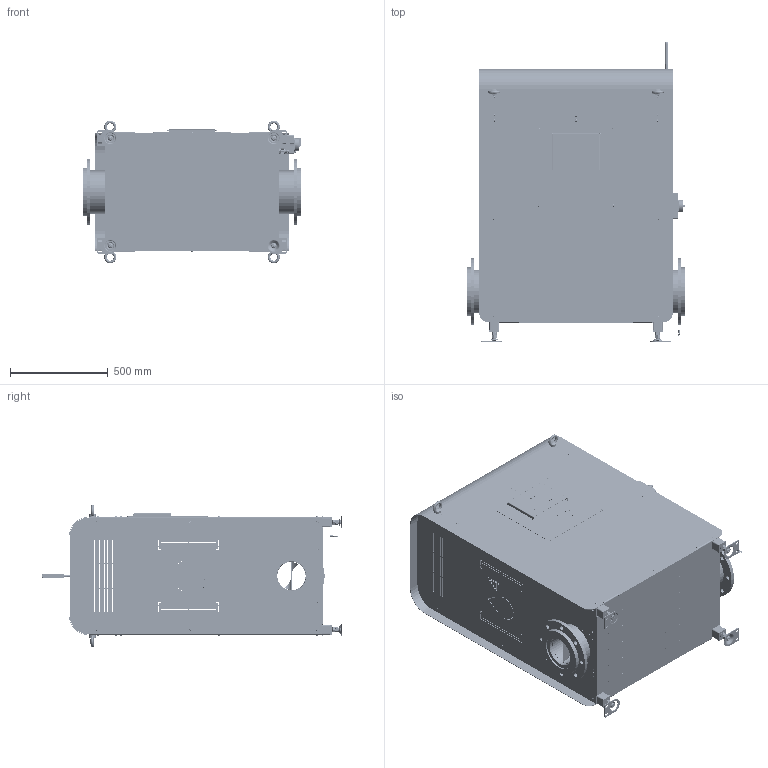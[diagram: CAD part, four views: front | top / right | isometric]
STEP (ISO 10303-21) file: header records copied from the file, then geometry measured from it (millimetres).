
FILE_DESCRIPTION(/* description */ (''),/* implementation_level */ '2;1');
FILE_NAME(/* name */ 'H Pro 100_V1.1_Simplifier.stp',/* time_stamp */ '2023-11-08T16:22:28+01:00',/* author */ ('MassimoMaselli'),/* organization */ (''),/* preprocessor_version */ 'ST-DEVELOPER v20',/* originating_system */ 'Autodesk Inventor 2024',/* authorisation */ '');
FILE_SCHEMA (('AUTOMOTIVE_DESIGN { 1 0 10303 214 3 1 1 }'));
Products named in the file (1): H Pro 100_V1.1_Simplifier
Bounding box: 1116.4 x 1538.53 x 730 mm (x, y, z)
Volume: 31317314.9 mm3; surface area: 16098018.3 mm2
Topology: 124 solids, 127 shells, 7082 faces, 18032 edges, 11822 vertices
Faces by surface type: plane 3600, bspline 1614, cylinder 1134, cone 426, torus 274, sphere 34
Full cylindrical faces by diameter (mm): 0.88 x2, 0.9 x3, 1.92 x4, 3 x40, 3.2 x6, 3.242 x2, 3.251 x1, 3.3 x4, 3.5 x4, 4 x2, 4.134 x48, 4.2 x2, 4.3 x2, 4.55 x2, 4.56 x2, 4.66 x1, 4.826 x1, 5 x50, 5.35 x4, 5.486 x12, 5.5 x4, 5.66 x4, 5.8 x1, 6 x53, 6.198 x1, 6.25 x8, 6.38 x2, 6.424 x6, 6.5 x55, 6.647 x2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
Entity records: 255200 total; most frequent: CARTESIAN_POINT 86311, ORIENTED_EDGE 35916, DIRECTION 28027, EDGE_CURVE 17960, VERTEX_POINT 11822, LINE 10235, VECTOR 10235, AXIS2_PLACEMENT_3D 8896
